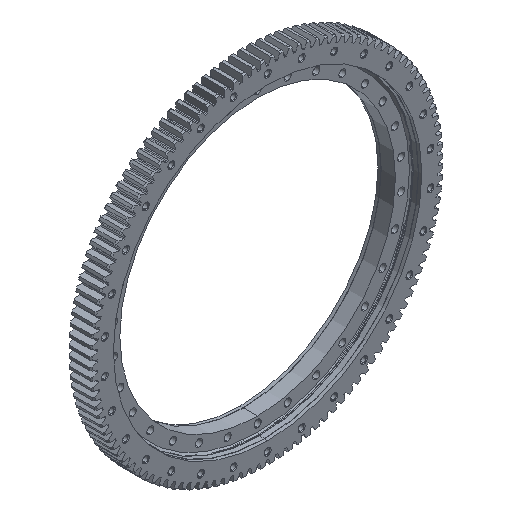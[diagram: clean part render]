
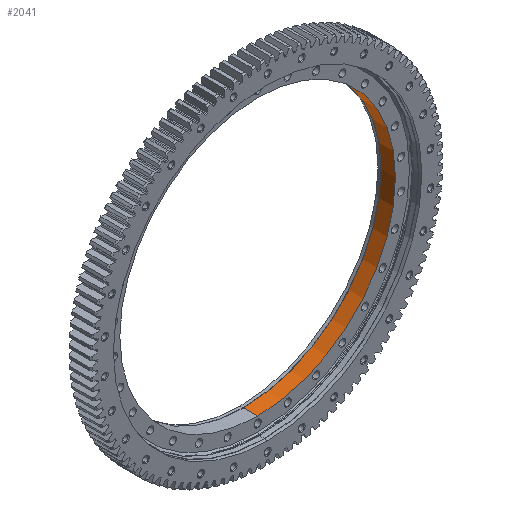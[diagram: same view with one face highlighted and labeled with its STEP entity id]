
A CAD part, isometric view. The second image highlights one B-rep face of the part: STEP entity #2041.
In plain terms, the highlighted cylindrical face has radius 427.5 mm (diameter 855 mm), a partial arc.
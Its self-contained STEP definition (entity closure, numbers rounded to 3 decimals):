
#341 = EDGE_LOOP ( 'NONE', ( #1172, #19328, #8361, #29213 ) ) ;
#436 = AXIS2_PLACEMENT_3D ( 'NONE', #10319, #19165, #4469 ) ;
#1172 = ORIENTED_EDGE ( 'NONE', *, *, #3669, .F. ) ;
#1233 = AXIS2_PLACEMENT_3D ( 'NONE', #16273, #36297, #13258 ) ;
#2041 = ADVANCED_FACE ( 'NONE', ( #17746 ), #23613, .F. ) ;
#2477 = VERTEX_POINT ( 'NONE', #18269 ) ;
#3669 = EDGE_CURVE ( 'NONE', #33316, #2477, #8359, .T. ) ;
#4469 = DIRECTION ( 'NONE',  ( 0., 0., -1. ) ) ;
#5264 = CIRCLE ( 'NONE', #436, 427.5 ) ;
#6172 = CARTESIAN_POINT ( 'NONE',  ( 0., -2.285, -427.5 ) ) ;
#8359 = LINE ( 'NONE', #35548, #18947 ) ;
#8361 = ORIENTED_EDGE ( 'NONE', *, *, #20025, .T. ) ;
#8613 = CARTESIAN_POINT ( 'NONE',  ( 0., 42.715, -427.5 ) ) ;
#9181 = AXIS2_PLACEMENT_3D ( 'NONE', #35129, #9254, #32289 ) ;
#9254 = DIRECTION ( 'NONE',  ( 0., -1., 0. ) ) ;
#10144 = VERTEX_POINT ( 'NONE', #8613 ) ;
#10319 = CARTESIAN_POINT ( 'NONE',  ( 0., 42.715, 0. ) ) ;
#11071 = VECTOR ( 'NONE', #16688, 1000. ) ;
#12696 = CIRCLE ( 'NONE', #1233, 427.5 ) ;
#13258 = DIRECTION ( 'NONE',  ( 0., 0., -1. ) ) ;
#16273 = CARTESIAN_POINT ( 'NONE',  ( 0., -2.285, 0. ) ) ;
#16688 = DIRECTION ( 'NONE',  ( 0., -1., 0. ) ) ;
#17355 = VERTEX_POINT ( 'NONE', #6172 ) ;
#17746 = FACE_OUTER_BOUND ( 'NONE', #341, .T. ) ;
#17797 = DIRECTION ( 'NONE',  ( 0., -1., 0. ) ) ;
#18269 = CARTESIAN_POINT ( 'NONE',  ( 0., -2.285, 427.5 ) ) ;
#18947 = VECTOR ( 'NONE', #17797, 1000. ) ;
#19165 = DIRECTION ( 'NONE',  ( 0., -1., 0. ) ) ;
#19328 = ORIENTED_EDGE ( 'NONE', *, *, #28013, .F. ) ;
#19521 = CARTESIAN_POINT ( 'NONE',  ( 0., 0., -427.5 ) ) ;
#20025 = EDGE_CURVE ( 'NONE', #10144, #17355, #25200, .T. ) ;
#23613 = CYLINDRICAL_SURFACE ( 'NONE', #9181, 427.5 ) ;
#25200 = LINE ( 'NONE', #19521, #11071 ) ;
#27444 = CARTESIAN_POINT ( 'NONE',  ( 0., 42.715, 427.5 ) ) ;
#28013 = EDGE_CURVE ( 'NONE', #10144, #33316, #5264, .T. ) ;
#29213 = ORIENTED_EDGE ( 'NONE', *, *, #31033, .T. ) ;
#31033 = EDGE_CURVE ( 'NONE', #17355, #2477, #12696, .T. ) ;
#32289 = DIRECTION ( 'NONE',  ( 0., 0., -1. ) ) ;
#33316 = VERTEX_POINT ( 'NONE', #27444 ) ;
#35129 = CARTESIAN_POINT ( 'NONE',  ( 0., 0., 0. ) ) ;
#35548 = CARTESIAN_POINT ( 'NONE',  ( 0., 0., 427.5 ) ) ;
#36297 = DIRECTION ( 'NONE',  ( 0., -1., 0. ) ) ;
